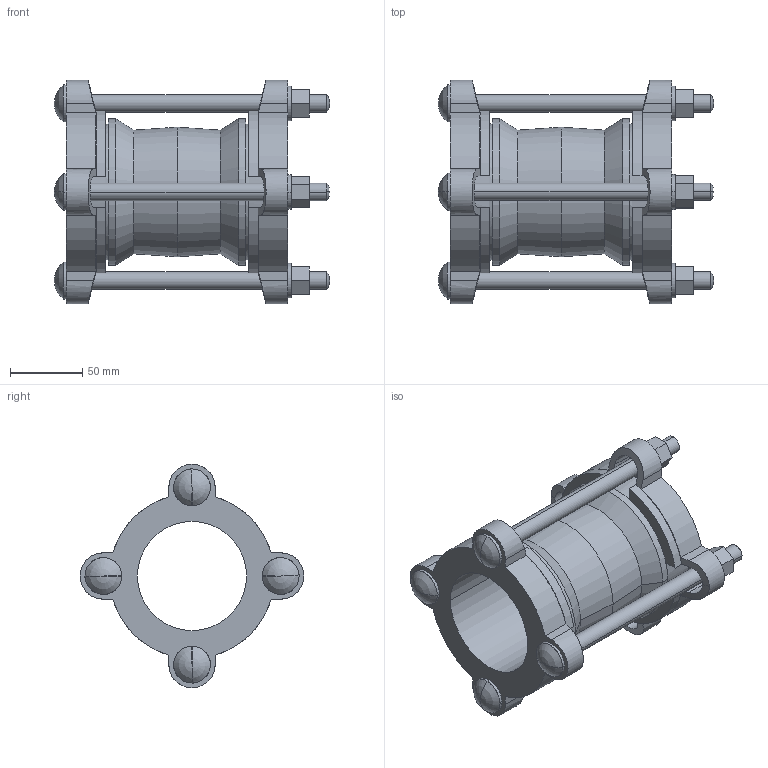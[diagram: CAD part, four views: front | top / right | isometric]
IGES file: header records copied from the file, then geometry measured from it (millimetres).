
Start section:  PTC IGES file: MAXIFIT_57-74.igs
Global section: file name: MAXIFIT_57-74.igs; native system: Creo Parametric by PTC Inc.; preprocessor: 2016130; author: MReader; organization: Unknown; date: 20180906.141424; units: millimetre
Bounding box: 190.33 x 154.5 x 154.5 mm (x, y, z)
Surface area: 156997.2 mm2 (no closed solid volume)
Topology: 0 solids, 0 shells, 194 faces, 1024 edges, 1008 vertices
Faces by surface type: revolution 102, bspline 92
